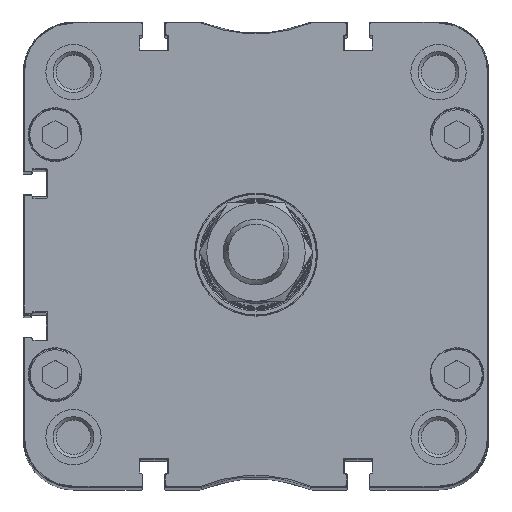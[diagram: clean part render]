
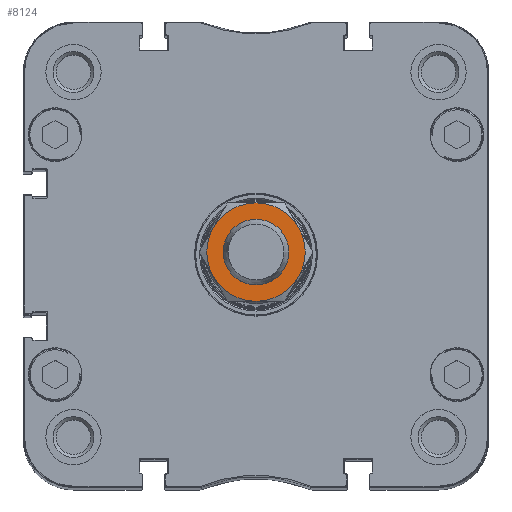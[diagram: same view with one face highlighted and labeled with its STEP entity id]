
A CAD part, top view. The second image highlights one B-rep face of the part: STEP entity #8124.
In plain terms, the highlighted planar face has unit normal (0, 0, 1) as drawn and (1, 0, 0) by its records, which use the part's own axes.
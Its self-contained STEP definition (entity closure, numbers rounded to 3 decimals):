
#491=CIRCLE('',#11119,12.);
#492=CIRCLE('',#11121,12.);
#493=CIRCLE('',#11123,12.);
#494=CIRCLE('',#11125,12.);
#495=CIRCLE('',#11127,12.);
#496=CIRCLE('',#11129,12.);
#503=CIRCLE('',#11143,8.);
#1627=ORIENTED_EDGE('',*,*,#3634,.F.);
#1628=ORIENTED_EDGE('',*,*,#3626,.T.);
#1629=ORIENTED_EDGE('',*,*,#3623,.T.);
#1630=ORIENTED_EDGE('',*,*,#3622,.T.);
#1631=ORIENTED_EDGE('',*,*,#3624,.T.);
#1632=ORIENTED_EDGE('',*,*,#3625,.T.);
#1633=ORIENTED_EDGE('',*,*,#3627,.T.);
#3622=EDGE_CURVE('',#4688,#4698,#491,.T.);
#3623=EDGE_CURVE('',#4684,#4688,#492,.T.);
#3624=EDGE_CURVE('',#4698,#4695,#493,.T.);
#3625=EDGE_CURVE('',#4695,#4691,#494,.T.);
#3626=EDGE_CURVE('',#4678,#4684,#495,.T.);
#3627=EDGE_CURVE('',#4691,#4678,#496,.T.);
#3634=EDGE_CURVE('',#4699,#4699,#503,.T.);
#4678=VERTEX_POINT('',#14651);
#4684=VERTEX_POINT('',#14672);
#4688=VERTEX_POINT('',#14690);
#4691=VERTEX_POINT('',#14709);
#4695=VERTEX_POINT('',#14727);
#4698=VERTEX_POINT('',#14744);
#4699=VERTEX_POINT('',#14774);
#6769=EDGE_LOOP('',(#1627));
#6770=EDGE_LOOP('',(#1628,#1629,#1630,#1631,#1632,#1633));
#7345=FACE_BOUND('',#6769,.T.);
#7346=FACE_BOUND('',#6770,.T.);
#7827=PLANE('',#11142);
#8124=ADVANCED_FACE('',(#7345,#7346),#7827,.T.);
#11119=AXIS2_PLACEMENT_3D('',#14749,#12410,#12411);
#11121=AXIS2_PLACEMENT_3D('',#14751,#12414,#12415);
#11123=AXIS2_PLACEMENT_3D('',#14753,#12418,#12419);
#11125=AXIS2_PLACEMENT_3D('',#14755,#12422,#12423);
#11127=AXIS2_PLACEMENT_3D('',#14757,#12426,#12427);
#11129=AXIS2_PLACEMENT_3D('',#14759,#12430,#12431);
#11142=AXIS2_PLACEMENT_3D('',#14772,#12456,#12457);
#11143=AXIS2_PLACEMENT_3D('',#14773,#12458,#12459);
#12410=DIRECTION('',(1.,0.,0.));
#12411=DIRECTION('',(0.,1.,0.));
#12414=DIRECTION('',(1.,0.,0.));
#12415=DIRECTION('',(0.,1.,0.));
#12418=DIRECTION('',(1.,0.,0.));
#12419=DIRECTION('',(0.,1.,0.));
#12422=DIRECTION('',(1.,0.,0.));
#12423=DIRECTION('',(0.,1.,0.));
#12426=DIRECTION('',(1.,0.,0.));
#12427=DIRECTION('',(0.,1.,0.));
#12430=DIRECTION('',(1.,0.,0.));
#12431=DIRECTION('',(0.,1.,0.));
#12456=DIRECTION('',(1.,0.,0.));
#12457=DIRECTION('',(0.,0.,-1.));
#12458=DIRECTION('',(1.,0.,0.));
#12459=DIRECTION('',(0.,0.,1.));
#14651=CARTESIAN_POINT('',(8.,-10.392,-6.));
#14672=CARTESIAN_POINT('',(8.,0.,-12.));
#14690=CARTESIAN_POINT('',(8.,10.392,-6.));
#14709=CARTESIAN_POINT('',(8.,-10.392,6.));
#14727=CARTESIAN_POINT('',(8.,0.,12.));
#14744=CARTESIAN_POINT('',(8.,10.392,6.));
#14749=CARTESIAN_POINT('',(8.,0.,0.));
#14751=CARTESIAN_POINT('',(8.,0.,0.));
#14753=CARTESIAN_POINT('',(8.,0.,0.));
#14755=CARTESIAN_POINT('',(8.,0.,0.));
#14757=CARTESIAN_POINT('',(8.,0.,0.));
#14759=CARTESIAN_POINT('',(8.,0.,0.));
#14772=CARTESIAN_POINT('',(8.,0.,0.));
#14773=CARTESIAN_POINT('',(8.,0.,0.));
#14774=CARTESIAN_POINT('',(8.,0.,8.));
